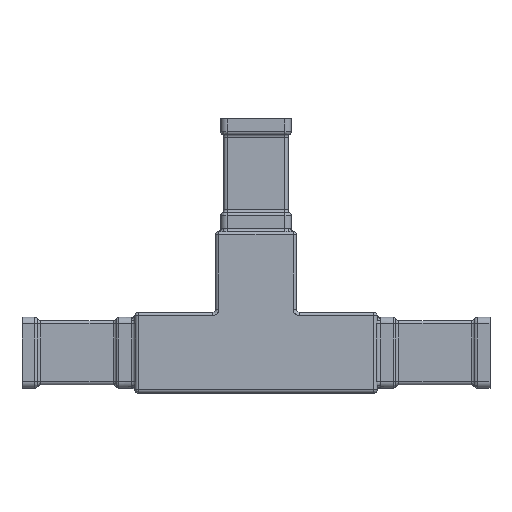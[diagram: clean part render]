
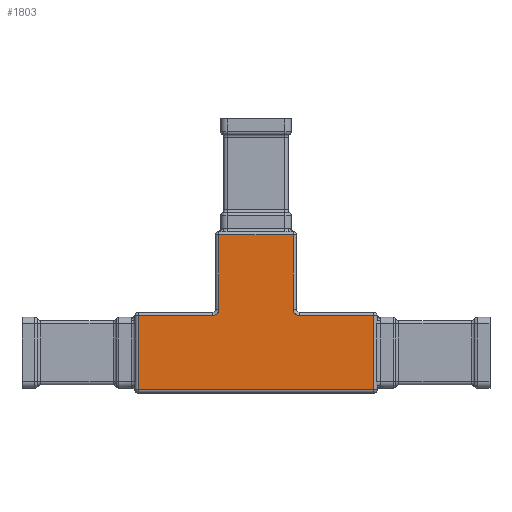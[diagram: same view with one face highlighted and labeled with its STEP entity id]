
A CAD part, top view. The second image highlights one B-rep face of the part: STEP entity #1803.
In plain terms, the highlighted planar face has unit normal (0, 0, 1).
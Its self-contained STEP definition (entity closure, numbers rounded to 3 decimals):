
#157 = CARTESIAN_POINT ( 'NONE',  ( -37.5, 1., 0. ) ) ;
#202 = EDGE_CURVE ( 'NONE', #11544, #11986, #14904, .T. ) ;
#229 = VERTEX_POINT ( 'NONE', #8151 ) ;
#297 = CARTESIAN_POINT ( 'NONE',  ( -11.5, 26., 0. ) ) ;
#510 = CARTESIAN_POINT ( 'NONE',  ( 36.5, 25., 0. ) ) ;
#760 = CARTESIAN_POINT ( 'NONE',  ( -36.5, 1., 0. ) ) ;
#958 = ORIENTED_EDGE ( 'NONE', *, *, #8809, .F. ) ;
#1176 = CARTESIAN_POINT ( 'NONE',  ( -11.5, 25., 0. ) ) ;
#1246 = ORIENTED_EDGE ( 'NONE', *, *, #8059, .F. ) ;
#1666 = DIRECTION ( 'NONE',  ( 0., -1., 0. ) ) ;
#1803 = ADVANCED_FACE ( 'NONE', ( #5746 ), #3437, .F. ) ;
#2023 = ORIENTED_EDGE ( 'NONE', *, *, #6745, .F. ) ;
#2103 = CARTESIAN_POINT ( 'NONE',  ( -11.5, 26., 0. ) ) ;
#2309 = DIRECTION ( 'NONE',  ( -1., 0., 0. ) ) ;
#2334 = DIRECTION ( 'NONE',  ( 0., 1., 0. ) ) ;
#2552 = VECTOR ( 'NONE', #11285, 1000. ) ;
#2968 = CARTESIAN_POINT ( 'NONE',  ( 11.5, 26., 0. ) ) ;
#3033 = EDGE_CURVE ( 'NONE', #3900, #229, #6305, .T. ) ;
#3038 = CARTESIAN_POINT ( 'NONE',  ( -12.328, 24., 0. ) ) ;
#3231 = EDGE_CURVE ( 'NONE', #11549, #6834, #12858, .T. ) ;
#3377 = CARTESIAN_POINT ( 'NONE',  ( 11.5, 25., 0. ) ) ;
#3437 = PLANE ( 'NONE',  #14799 ) ;
#3448 = EDGE_CURVE ( 'NONE', #6361, #11544, #13756, .T. ) ;
#3900 = VERTEX_POINT ( 'NONE', #6445 ) ;
#3907 = EDGE_CURVE ( 'NONE', #10441, #3900, #5297, .T. ) ;
#4355 = VECTOR ( 'NONE', #2334, 1000. ) ;
#4570 = CARTESIAN_POINT ( 'NONE',  ( -13.5, 24., 0. ) ) ;
#4999 = CARTESIAN_POINT ( 'NONE',  ( 11.5, 49., 0. ) ) ;
#5072 = DIRECTION ( 'NONE',  ( 0., 1., 0. ) ) ;
#5208 = CARTESIAN_POINT ( 'NONE',  ( 13.5, 24., 0. ) ) ;
#5297 = LINE ( 'NONE', #9974, #10190 ) ;
#5311 = ORIENTED_EDGE ( 'NONE', *, *, #202, .F. ) ;
#5430 = ORIENTED_EDGE ( 'NONE', *, *, #8270, .F. ) ;
#5449 =( BOUNDED_CURVE ( )  B_SPLINE_CURVE ( 3, ( #9964, #12033, #13413, #5208 ),
 .UNSPECIFIED., .F., .T. ) 
 B_SPLINE_CURVE_WITH_KNOTS ( ( 4, 4 ),
 ( 0., 1. ),
 .UNSPECIFIED. ) 
 CURVE ( )  GEOMETRIC_REPRESENTATION_ITEM ( )  RATIONAL_B_SPLINE_CURVE ( ( 1., 0.805, 0.805, 1. ) ) 
 REPRESENTATION_ITEM ( '' )  );
#5468 = DIRECTION ( 'NONE',  ( 0., 0., -1. ) ) ;
#5746 = FACE_OUTER_BOUND ( 'NONE', #11522, .T. ) ;
#5813 = VERTEX_POINT ( 'NONE', #297 ) ;
#5854 = CARTESIAN_POINT ( 'NONE',  ( -11.5, 49., 0. ) ) ;
#5960 = ORIENTED_EDGE ( 'NONE', *, *, #3231, .F. ) ;
#6155 = CARTESIAN_POINT ( 'NONE',  ( 13.5, 24., 0. ) ) ;
#6305 = LINE ( 'NONE', #510, #12368 ) ;
#6361 = VERTEX_POINT ( 'NONE', #5854 ) ;
#6445 = CARTESIAN_POINT ( 'NONE',  ( 36.5, 24., 0. ) ) ;
#6745 = EDGE_CURVE ( 'NONE', #6834, #5813, #9641, .T. ) ;
#6782 = CARTESIAN_POINT ( 'NONE',  ( -37.5, 49., 0. ) ) ;
#6834 = VERTEX_POINT ( 'NONE', #4570 ) ;
#7127 = VECTOR ( 'NONE', #5072, 1000. ) ;
#7235 = LINE ( 'NONE', #8458, #7127 ) ;
#8059 = EDGE_CURVE ( 'NONE', #11986, #10441, #5449, .T. ) ;
#8151 = CARTESIAN_POINT ( 'NONE',  ( 36.5, 1., 0. ) ) ;
#8270 = EDGE_CURVE ( 'NONE', #229, #11379, #15174, .T. ) ;
#8458 = CARTESIAN_POINT ( 'NONE',  ( -36.5, 25., 0. ) ) ;
#8809 = EDGE_CURVE ( 'NONE', #5813, #6361, #10496, .T. ) ;
#8823 = ORIENTED_EDGE ( 'NONE', *, *, #3033, .F. ) ;
#9603 = ORIENTED_EDGE ( 'NONE', *, *, #9713, .F. ) ;
#9641 =( BOUNDED_CURVE ( )  B_SPLINE_CURVE ( 3, ( #14866, #3038, #10117, #2103 ),
 .UNSPECIFIED., .F., .T. ) 
 B_SPLINE_CURVE_WITH_KNOTS ( ( 4, 4 ),
 ( 0., 1. ),
 .UNSPECIFIED. ) 
 CURVE ( )  GEOMETRIC_REPRESENTATION_ITEM ( )  RATIONAL_B_SPLINE_CURVE ( ( 1., 0.805, 0.805, 1. ) ) 
 REPRESENTATION_ITEM ( '' )  );
#9713 = EDGE_CURVE ( 'NONE', #11379, #11549, #7235, .T. ) ;
#9746 = VECTOR ( 'NONE', #2309, 1000. ) ;
#9964 = CARTESIAN_POINT ( 'NONE',  ( 11.5, 26., 0. ) ) ;
#9974 = CARTESIAN_POINT ( 'NONE',  ( -37.5, 24., 0. ) ) ;
#10117 = CARTESIAN_POINT ( 'NONE',  ( -11.5, 24.828, 0. ) ) ;
#10145 = DIRECTION ( 'NONE',  ( -1., 0., 0. ) ) ;
#10190 = VECTOR ( 'NONE', #14654, 1000. ) ;
#10441 = VERTEX_POINT ( 'NONE', #6155 ) ;
#10443 = DIRECTION ( 'NONE',  ( 0., -1., 0. ) ) ;
#10496 = LINE ( 'NONE', #1176, #4355 ) ;
#10654 = ORIENTED_EDGE ( 'NONE', *, *, #3448, .F. ) ;
#11285 = DIRECTION ( 'NONE',  ( 1., 0., 0. ) ) ;
#11379 = VERTEX_POINT ( 'NONE', #760 ) ;
#11453 = DIRECTION ( 'NONE',  ( 1., 0., 0. ) ) ;
#11522 = EDGE_LOOP ( 'NONE', ( #9603, #5430, #8823, #12113, #1246, #5311, #10654, #958, #2023, #5960 ) ) ;
#11544 = VERTEX_POINT ( 'NONE', #4999 ) ;
#11549 = VERTEX_POINT ( 'NONE', #13136 ) ;
#11986 = VERTEX_POINT ( 'NONE', #2968 ) ;
#12033 = CARTESIAN_POINT ( 'NONE',  ( 11.5, 24.828, 0. ) ) ;
#12113 = ORIENTED_EDGE ( 'NONE', *, *, #3907, .F. ) ;
#12368 = VECTOR ( 'NONE', #1666, 1000. ) ;
#12627 = VECTOR ( 'NONE', #11453, 1000. ) ;
#12858 = LINE ( 'NONE', #14814, #2552 ) ;
#13136 = CARTESIAN_POINT ( 'NONE',  ( -36.5, 24., 0. ) ) ;
#13413 = CARTESIAN_POINT ( 'NONE',  ( 12.328, 24., 0. ) ) ;
#13545 = VECTOR ( 'NONE', #10443, 1000. ) ;
#13756 = LINE ( 'NONE', #6782, #12627 ) ;
#14654 = DIRECTION ( 'NONE',  ( 1., 0., 0. ) ) ;
#14799 = AXIS2_PLACEMENT_3D ( 'NONE', #14977, #5468, #10145 ) ;
#14814 = CARTESIAN_POINT ( 'NONE',  ( -37.5, 24., 0. ) ) ;
#14866 = CARTESIAN_POINT ( 'NONE',  ( -13.5, 24., 0. ) ) ;
#14904 = LINE ( 'NONE', #3377, #13545 ) ;
#14977 = CARTESIAN_POINT ( 'NONE',  ( -37.5, 25., 0. ) ) ;
#15174 = LINE ( 'NONE', #157, #9746 ) ;
